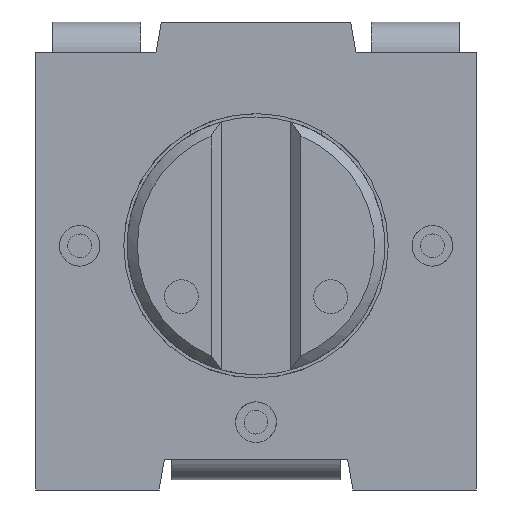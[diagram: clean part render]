
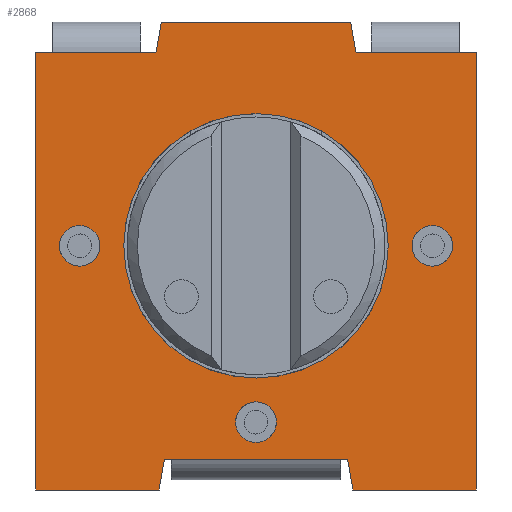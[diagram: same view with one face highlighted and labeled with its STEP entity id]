
A CAD part, front view. The second image highlights one B-rep face of the part: STEP entity #2868.
In plain terms, the highlighted planar face has unit normal (0, -1, 0).
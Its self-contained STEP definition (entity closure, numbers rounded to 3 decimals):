
#1=DIRECTION('',(0.174,0.,0.985));
#2=VECTOR('',#1,0.232);
#3=CARTESIAN_POINT('',(-0.749,0.,1.448));
#4=LINE('',#3,#2);
#5=DIRECTION('',(1.,0.,0.));
#6=VECTOR('',#5,1.418);
#7=CARTESIAN_POINT('',(-0.709,0.,1.676));
#8=LINE('',#7,#6);
#9=DIRECTION('',(0.174,0.,-0.985));
#10=VECTOR('',#9,0.232);
#11=CARTESIAN_POINT('',(0.709,0.,1.676));
#12=LINE('',#11,#10);
#13=DIRECTION('',(0.,0.,-1.));
#14=VECTOR('',#13,3.277);
#15=CARTESIAN_POINT('',(1.651,0.,1.448));
#16=LINE('',#15,#14);
#17=DIRECTION('',(-1.,0.,0.));
#18=VECTOR('',#17,0.925);
#19=CARTESIAN_POINT('',(1.651,0.,-1.829));
#20=LINE('',#19,#18);
#21=DIRECTION('',(-0.174,0.,0.985));
#22=VECTOR('',#21,0.232);
#23=CARTESIAN_POINT('',(0.726,0.,-1.829));
#24=LINE('',#23,#22);
#25=DIRECTION('',(-0.174,0.,-0.985));
#26=VECTOR('',#25,0.232);
#27=CARTESIAN_POINT('',(-0.686,0.,-1.6));
#28=LINE('',#27,#26);
#29=DIRECTION('',(-1.,0.,0.));
#30=VECTOR('',#29,0.925);
#31=CARTESIAN_POINT('',(-0.726,0.,-1.829));
#32=LINE('',#31,#30);
#33=DIRECTION('',(0.,0.,1.));
#34=VECTOR('',#33,3.277);
#35=CARTESIAN_POINT('',(-1.651,0.,-1.829));
#36=LINE('',#35,#34);
#37=DIRECTION('',(1.,0.,0.));
#38=VECTOR('',#37,0.902);
#39=CARTESIAN_POINT('',(-1.651,0.,1.448));
#40=LINE('',#39,#38);
#41=CARTESIAN_POINT('',(0.,0.,0.));
#42=DIRECTION('',(0.,-1.,0.));
#43=DIRECTION('',(1.,0.,0.));
#44=AXIS2_PLACEMENT_3D('',#41,#42,#43);
#46=CARTESIAN_POINT('',(0.,0.,0.));
#47=DIRECTION('',(0.,-1.,0.));
#48=DIRECTION('',(-1.,0.,0.));
#49=AXIS2_PLACEMENT_3D('',#46,#47,#48);
#51=CARTESIAN_POINT('',(1.321,0.,0.));
#52=DIRECTION('',(0.,-1.,0.));
#53=DIRECTION('',(-1.,0.,0.));
#54=AXIS2_PLACEMENT_3D('',#51,#52,#53);
#56=CARTESIAN_POINT('',(1.321,0.,0.));
#57=DIRECTION('',(0.,-1.,0.));
#58=DIRECTION('',(1.,0.,0.));
#59=AXIS2_PLACEMENT_3D('',#56,#57,#58);
#61=CARTESIAN_POINT('',(0.,0.,-1.321));
#62=DIRECTION('',(0.,-1.,0.));
#63=DIRECTION('',(-1.,0.,0.));
#64=AXIS2_PLACEMENT_3D('',#61,#62,#63);
#66=CARTESIAN_POINT('',(0.,0.,-1.321));
#67=DIRECTION('',(0.,-1.,0.));
#68=DIRECTION('',(1.,0.,0.));
#69=AXIS2_PLACEMENT_3D('',#66,#67,#68);
#71=CARTESIAN_POINT('',(-1.321,0.,0.));
#72=DIRECTION('',(0.,-1.,0.));
#73=DIRECTION('',(-1.,0.,0.));
#74=AXIS2_PLACEMENT_3D('',#71,#72,#73);
#76=CARTESIAN_POINT('',(-1.321,0.,0.));
#77=DIRECTION('',(0.,-1.,0.));
#78=DIRECTION('',(1.,0.,0.));
#79=AXIS2_PLACEMENT_3D('',#76,#77,#78);
#433=DIRECTION('',(1.,0.,0.));
#434=VECTOR('',#433,1.372);
#435=CARTESIAN_POINT('',(-0.686,0.,-1.6));
#436=LINE('',#435,#434);
#1154=DIRECTION('',(-1.,0.,0.));
#1155=VECTOR('',#1154,0.902);
#1156=CARTESIAN_POINT('',(1.651,0.,1.448));
#1157=LINE('',#1156,#1155);
#2181=CARTESIAN_POINT('',(-0.749,0.,1.448));
#2182=CARTESIAN_POINT('',(-0.709,0.,1.676));
#2183=VERTEX_POINT('',#2181);
#2184=VERTEX_POINT('',#2182);
#2185=CARTESIAN_POINT('',(0.709,0.,1.676));
#2186=VERTEX_POINT('',#2185);
#2187=CARTESIAN_POINT('',(0.749,0.,1.448));
#2188=VERTEX_POINT('',#2187);
#2189=CARTESIAN_POINT('',(1.651,0.,1.448));
#2190=VERTEX_POINT('',#2189);
#2191=CARTESIAN_POINT('',(1.651,0.,-1.829));
#2192=VERTEX_POINT('',#2191);
#2193=CARTESIAN_POINT('',(0.726,0.,-1.829));
#2194=VERTEX_POINT('',#2193);
#2195=CARTESIAN_POINT('',(0.686,0.,-1.6));
#2196=VERTEX_POINT('',#2195);
#2197=CARTESIAN_POINT('',(-0.686,0.,-1.6));
#2198=VERTEX_POINT('',#2197);
#2199=CARTESIAN_POINT('',(-0.726,0.,-1.829));
#2200=VERTEX_POINT('',#2199);
#2201=CARTESIAN_POINT('',(-1.651,0.,-1.829));
#2202=VERTEX_POINT('',#2201);
#2203=CARTESIAN_POINT('',(-1.651,0.,1.448));
#2204=VERTEX_POINT('',#2203);
#2604=CARTESIAN_POINT('',(0.991,0.,0.));
#2606=VERTEX_POINT('',#2604);
#2611=CARTESIAN_POINT('',(-0.991,0.,0.));
#2612=VERTEX_POINT('',#2611);
#2729=CARTESIAN_POINT('',(1.168,0.,0.));
#2731=VERTEX_POINT('',#2729);
#2737=CARTESIAN_POINT('',(1.473,0.,0.));
#2738=VERTEX_POINT('',#2737);
#2757=CARTESIAN_POINT('',(-0.152,0.,-1.321));
#2759=VERTEX_POINT('',#2757);
#2765=CARTESIAN_POINT('',(0.152,0.,-1.321));
#2766=VERTEX_POINT('',#2765);
#2785=CARTESIAN_POINT('',(-1.473,0.,0.));
#2787=VERTEX_POINT('',#2785);
#2793=CARTESIAN_POINT('',(-1.168,0.,0.));
#2794=VERTEX_POINT('',#2793);
#2813=CARTESIAN_POINT('',(0.,0.,-0.076));
#2814=DIRECTION('',(0.,1.,0.));
#2815=DIRECTION('',(1.,0.,0.));
#2816=AXIS2_PLACEMENT_3D('',#2813,#2814,#2815);
#2817=PLANE('',#2816);
#2819=ORIENTED_EDGE('',*,*,#2818,.T.);
#2821=ORIENTED_EDGE('',*,*,#2820,.T.);
#2823=ORIENTED_EDGE('',*,*,#2822,.T.);
#2825=ORIENTED_EDGE('',*,*,#2824,.F.);
#2827=ORIENTED_EDGE('',*,*,#2826,.T.);
#2829=ORIENTED_EDGE('',*,*,#2828,.T.);
#2831=ORIENTED_EDGE('',*,*,#2830,.T.);
#2833=ORIENTED_EDGE('',*,*,#2832,.F.);
#2835=ORIENTED_EDGE('',*,*,#2834,.T.);
#2837=ORIENTED_EDGE('',*,*,#2836,.T.);
#2839=ORIENTED_EDGE('',*,*,#2838,.T.);
#2841=ORIENTED_EDGE('',*,*,#2840,.T.);
#2842=EDGE_LOOP('',(#2819,#2821,#2823,#2825,#2827,#2829,#2831,#2833,#2835,#2837,
#2839,#2841));
#2843=FACE_OUTER_BOUND('',#2842,.F.);
#2845=ORIENTED_EDGE('',*,*,#2844,.T.);
#2847=ORIENTED_EDGE('',*,*,#2846,.T.);
#2848=EDGE_LOOP('',(#2845,#2847));
#2849=FACE_BOUND('',#2848,.F.);
#2851=ORIENTED_EDGE('',*,*,#2850,.T.);
#2853=ORIENTED_EDGE('',*,*,#2852,.T.);
#2854=EDGE_LOOP('',(#2851,#2853));
#2855=FACE_BOUND('',#2854,.F.);
#2857=ORIENTED_EDGE('',*,*,#2856,.T.);
#2859=ORIENTED_EDGE('',*,*,#2858,.T.);
#2860=EDGE_LOOP('',(#2857,#2859));
#2861=FACE_BOUND('',#2860,.F.);
#2863=ORIENTED_EDGE('',*,*,#2862,.T.);
#2865=ORIENTED_EDGE('',*,*,#2864,.T.);
#2866=EDGE_LOOP('',(#2863,#2865));
#2867=FACE_BOUND('',#2866,.F.);
#45=CIRCLE('',#44,0.991);
#50=CIRCLE('',#49,0.991);
#55=CIRCLE('',#54,0.152);
#60=CIRCLE('',#59,0.152);
#65=CIRCLE('',#64,0.152);
#70=CIRCLE('',#69,0.152);
#75=CIRCLE('',#74,0.152);
#80=CIRCLE('',#79,0.152);
#2818=EDGE_CURVE('',#2183,#2184,#4,.T.);
#2820=EDGE_CURVE('',#2184,#2186,#8,.T.);
#2822=EDGE_CURVE('',#2186,#2188,#12,.T.);
#2824=EDGE_CURVE('',#2190,#2188,#1157,.T.);
#2826=EDGE_CURVE('',#2190,#2192,#16,.T.);
#2828=EDGE_CURVE('',#2192,#2194,#20,.T.);
#2830=EDGE_CURVE('',#2194,#2196,#24,.T.);
#2832=EDGE_CURVE('',#2198,#2196,#436,.T.);
#2834=EDGE_CURVE('',#2198,#2200,#28,.T.);
#2836=EDGE_CURVE('',#2200,#2202,#32,.T.);
#2838=EDGE_CURVE('',#2202,#2204,#36,.T.);
#2840=EDGE_CURVE('',#2204,#2183,#40,.T.);
#2844=EDGE_CURVE('',#2606,#2612,#45,.T.);
#2846=EDGE_CURVE('',#2612,#2606,#50,.T.);
#2850=EDGE_CURVE('',#2731,#2738,#55,.T.);
#2852=EDGE_CURVE('',#2738,#2731,#60,.T.);
#2856=EDGE_CURVE('',#2759,#2766,#65,.T.);
#2858=EDGE_CURVE('',#2766,#2759,#70,.T.);
#2862=EDGE_CURVE('',#2787,#2794,#75,.T.);
#2864=EDGE_CURVE('',#2794,#2787,#80,.T.);
#2868=ADVANCED_FACE('',(#2843,#2849,#2855,#2861,#2867),#2817,.F.);
